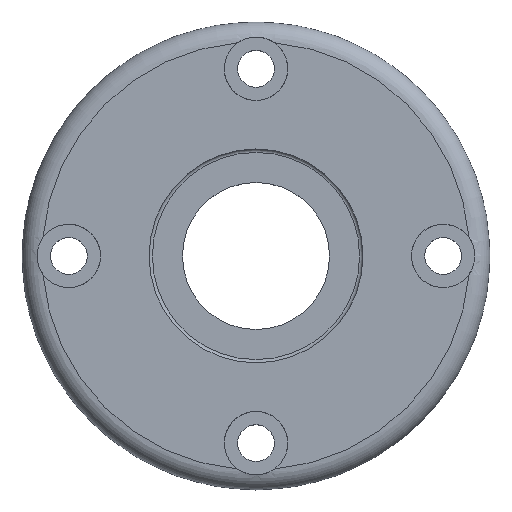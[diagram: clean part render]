
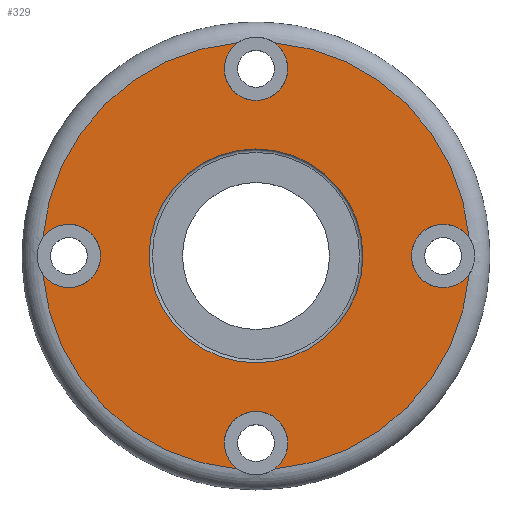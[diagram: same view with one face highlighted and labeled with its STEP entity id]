
A CAD part, top view. The second image highlights one B-rep face of the part: STEP entity #329.
In plain terms, the highlighted planar face has unit normal (0, 0, 1).
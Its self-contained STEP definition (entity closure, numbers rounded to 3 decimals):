
#24=PLANE('',#393);
#55=FACE_BOUND('',#123,.T.);
#83=FACE_OUTER_BOUND('',#122,.T.);
#122=EDGE_LOOP('',(#275,#276,#277,#278,#279,#280,#281,#282));
#123=EDGE_LOOP('',(#283));
#146=CIRCLE('',#362,16.);
#156=CIRCLE('',#378,4.75);
#158=CIRCLE('',#382,4.75);
#160=CIRCLE('',#386,4.75);
#162=CIRCLE('',#390,4.75);
#164=CIRCLE('',#394,32.);
#165=CIRCLE('',#395,32.);
#166=CIRCLE('',#396,32.);
#167=CIRCLE('',#397,32.);
#177=VERTEX_POINT('',#532);
#187=VERTEX_POINT('',#558);
#188=VERTEX_POINT('',#559);
#190=VERTEX_POINT('',#577);
#191=VERTEX_POINT('',#578);
#193=VERTEX_POINT('',#596);
#194=VERTEX_POINT('',#597);
#196=VERTEX_POINT('',#615);
#197=VERTEX_POINT('',#616);
#208=EDGE_CURVE('',#177,#177,#146,.T.);
#219=EDGE_CURVE('',#188,#187,#156,.T.);
#222=EDGE_CURVE('',#191,#190,#158,.T.);
#225=EDGE_CURVE('',#194,#193,#160,.T.);
#228=EDGE_CURVE('',#197,#196,#162,.T.);
#230=EDGE_CURVE('',#197,#187,#164,.T.);
#231=EDGE_CURVE('',#191,#196,#165,.T.);
#232=EDGE_CURVE('',#194,#190,#166,.T.);
#233=EDGE_CURVE('',#188,#193,#167,.T.);
#275=ORIENTED_EDGE('',*,*,#219,.T.);
#276=ORIENTED_EDGE('',*,*,#230,.F.);
#277=ORIENTED_EDGE('',*,*,#228,.T.);
#278=ORIENTED_EDGE('',*,*,#231,.F.);
#279=ORIENTED_EDGE('',*,*,#222,.T.);
#280=ORIENTED_EDGE('',*,*,#232,.F.);
#281=ORIENTED_EDGE('',*,*,#225,.T.);
#282=ORIENTED_EDGE('',*,*,#233,.F.);
#283=ORIENTED_EDGE('',*,*,#208,.T.);
#329=ADVANCED_FACE('',(#83,#55),#24,.T.);
#362=AXIS2_PLACEMENT_3D('',#533,#423,#424);
#378=AXIS2_PLACEMENT_3D('',#572,#455,#456);
#382=AXIS2_PLACEMENT_3D('',#591,#463,#464);
#386=AXIS2_PLACEMENT_3D('',#610,#471,#472);
#390=AXIS2_PLACEMENT_3D('',#629,#479,#480);
#393=AXIS2_PLACEMENT_3D('',#633,#485,#486);
#394=AXIS2_PLACEMENT_3D('',#634,#487,#488);
#395=AXIS2_PLACEMENT_3D('',#635,#489,#490);
#396=AXIS2_PLACEMENT_3D('',#636,#491,#492);
#397=AXIS2_PLACEMENT_3D('',#637,#493,#494);
#423=DIRECTION('center_axis',(0.,0.,-1.));
#424=DIRECTION('ref_axis',(-1.,0.,0.));
#455=DIRECTION('center_axis',(0.,0.,-1.));
#456=DIRECTION('ref_axis',(1.,0.,0.));
#463=DIRECTION('center_axis',(0.,0.,-1.));
#464=DIRECTION('ref_axis',(1.,0.,0.));
#471=DIRECTION('center_axis',(0.,0.,-1.));
#472=DIRECTION('ref_axis',(1.,0.,0.));
#479=DIRECTION('center_axis',(0.,0.,-1.));
#480=DIRECTION('ref_axis',(1.,0.,0.));
#485=DIRECTION('center_axis',(0.,0.,1.));
#486=DIRECTION('ref_axis',(1.,0.,0.));
#487=DIRECTION('center_axis',(0.,0.,-1.));
#488=DIRECTION('ref_axis',(-1.,0.,0.));
#489=DIRECTION('center_axis',(0.,0.,-1.));
#490=DIRECTION('ref_axis',(-1.,0.,0.));
#491=DIRECTION('center_axis',(0.,0.,-1.));
#492=DIRECTION('ref_axis',(-1.,0.,0.));
#493=DIRECTION('center_axis',(0.,0.,-1.));
#494=DIRECTION('ref_axis',(-1.,0.,0.));
#532=CARTESIAN_POINT('',(16.,0.,7.));
#533=CARTESIAN_POINT('Origin',(0.,0.,7.));
#558=CARTESIAN_POINT('',(2.736,-31.883,7.));
#559=CARTESIAN_POINT('',(-2.736,-31.883,7.));
#572=CARTESIAN_POINT('Origin',(0.,-28.,7.));
#577=CARTESIAN_POINT('',(-2.736,31.883,7.));
#578=CARTESIAN_POINT('',(2.736,31.883,7.));
#591=CARTESIAN_POINT('Origin',(0.,28.,7.));
#596=CARTESIAN_POINT('',(-31.883,-2.736,7.));
#597=CARTESIAN_POINT('',(-31.883,2.736,7.));
#610=CARTESIAN_POINT('Origin',(-28.,0.,7.));
#615=CARTESIAN_POINT('',(31.883,2.736,7.));
#616=CARTESIAN_POINT('',(31.883,-2.736,7.));
#629=CARTESIAN_POINT('Origin',(28.,0.,7.));
#633=CARTESIAN_POINT('Origin',(0.,0.,
7.));
#634=CARTESIAN_POINT('Origin',(0.,0.,7.));
#635=CARTESIAN_POINT('Origin',(0.,0.,7.));
#636=CARTESIAN_POINT('Origin',(0.,0.,7.));
#637=CARTESIAN_POINT('Origin',(0.,0.,7.));
